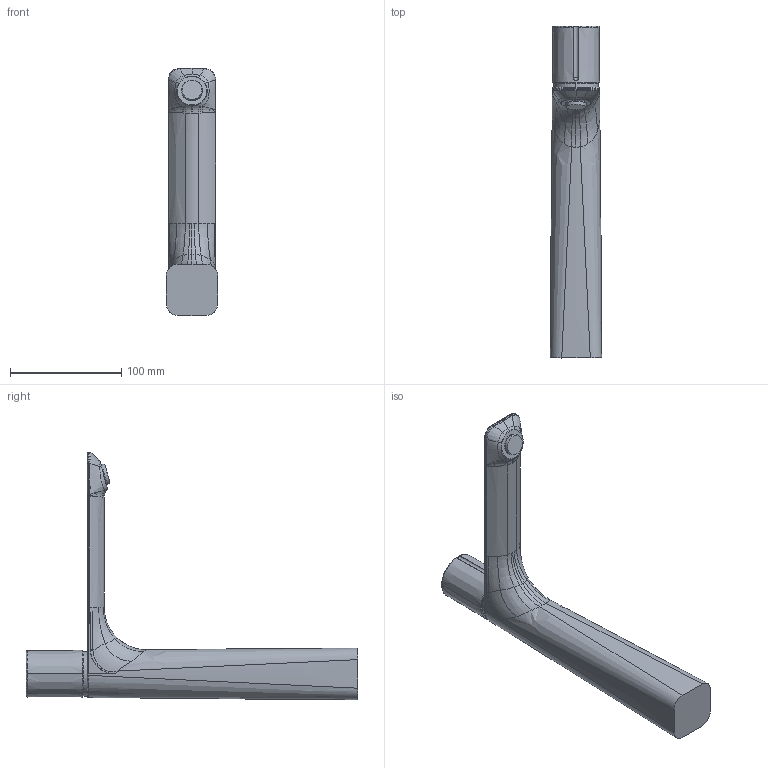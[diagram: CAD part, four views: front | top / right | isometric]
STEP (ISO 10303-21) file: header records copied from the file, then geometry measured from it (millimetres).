
FILE_DESCRIPTION((''),'2;1');
FILE_NAME('509541_180_SW0001','2021-10-20T14:12:54',('KS894'),(''),'CREO PARAMETRIC BY PTC INC, 2018500','CREO PARAMETRIC BY PTC INC, 2018500','');
FILE_SCHEMA(('CONFIG_CONTROL_DESIGN'));
Length unit declared in the file: millimetre
Products named in the file (1): 509541_180_SW0001
Bounding box: 46.2 x 298.15 x 222.1 mm (x, y, z)
Volume: 596387 mm3; surface area: 65058 mm2
Topology: 1 solids, 1 shells, 144 faces, 329 edges, 191 vertices
Faces by surface type: bspline 113, plane 9, cylinder 9, torus 7, cone 4, sphere 2
Entity records: 11805 total; most frequent: CARTESIAN_POINT 9288, ORIENTED_EDGE 658, EDGE_CURVE 329, DIRECTION 286, B_SPLINE_CURVE_WITH_KNOTS 200, VERTEX_POINT 191, EDGE_LOOP 148, FACE_OUTER_BOUND 144
